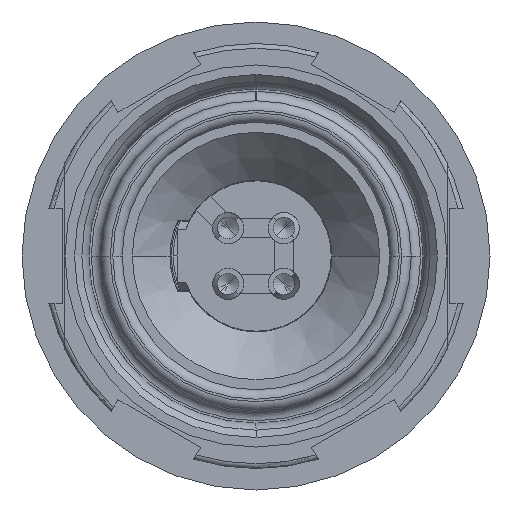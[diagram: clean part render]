
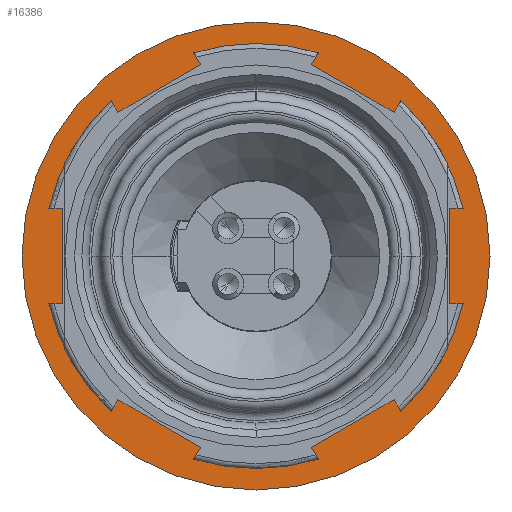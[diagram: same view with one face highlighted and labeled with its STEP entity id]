
A CAD part, left-side view. The second image highlights one B-rep face of the part: STEP entity #16386.
In plain terms, the highlighted planar face has unit normal (-1, 0, 0).
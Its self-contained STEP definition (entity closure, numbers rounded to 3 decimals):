
#1805=CARTESIAN_POINT('',(-5.5,0.,0.));
#1806=DIRECTION('',(1.,0.,0.));
#1807=DIRECTION('',(0.,-1.,0.));
#1808=AXIS2_PLACEMENT_3D('',#1805,#1806,#1807);
#1810=CARTESIAN_POINT('',(-5.5,0.,0.));
#1811=DIRECTION('',(1.,0.,0.));
#1812=DIRECTION('',(0.,1.,0.));
#1813=AXIS2_PLACEMENT_3D('',#1810,#1811,#1812);
#1815=CARTESIAN_POINT('',(-5.5,0.,0.));
#1816=DIRECTION('',(-1.,0.,0.));
#1817=DIRECTION('',(0.,-1.,0.));
#1818=AXIS2_PLACEMENT_3D('',#1815,#1816,#1817);
#1820=CARTESIAN_POINT('',(-5.5,0.,0.));
#1821=DIRECTION('',(-1.,0.,0.));
#1822=DIRECTION('',(0.,1.,0.));
#1823=AXIS2_PLACEMENT_3D('',#1820,#1821,#1822);
#10129=CARTESIAN_POINT('',(-5.5,4.9,0.));
#10130=VERTEX_POINT('',#10129);
#10131=CARTESIAN_POINT('',(-5.5,-4.9,0.));
#10132=VERTEX_POINT('',#10131);
#10135=CARTESIAN_POINT('',(-5.5,-3.6,0.));
#10136=CARTESIAN_POINT('',(-5.5,3.6,0.));
#10137=VERTEX_POINT('',#10135);
#10138=VERTEX_POINT('',#10136);
#16371=CARTESIAN_POINT('',(-5.5,0.,0.));
#16372=DIRECTION('',(1.,0.,0.));
#16373=DIRECTION('',(0.,-1.,0.));
#16374=AXIS2_PLACEMENT_3D('',#16371,#16372,#16373);
#16375=PLANE('',#16374);
#16376=ORIENTED_EDGE('',*,*,#16313,.T.);
#16377=ORIENTED_EDGE('',*,*,#16337,.T.);
#16378=EDGE_LOOP('',(#16376,#16377));
#16379=FACE_OUTER_BOUND('',#16378,.F.);
#16381=ORIENTED_EDGE('',*,*,#16380,.T.);
#16383=ORIENTED_EDGE('',*,*,#16382,.T.);
#16384=EDGE_LOOP('',(#16381,#16383));
#16385=FACE_BOUND('',#16384,.F.);
#1809=CIRCLE('',#1808,4.9);
#1814=CIRCLE('',#1813,4.9);
#1819=CIRCLE('',#1818,3.6);
#1824=CIRCLE('',#1823,3.6);
#16313=EDGE_CURVE('',#10132,#10130,#1809,.T.);
#16337=EDGE_CURVE('',#10130,#10132,#1814,.T.);
#16380=EDGE_CURVE('',#10137,#10138,#1819,.T.);
#16382=EDGE_CURVE('',#10138,#10137,#1824,.T.);
#16386=ADVANCED_FACE('',(#16379,#16385),#16375,.F.);
